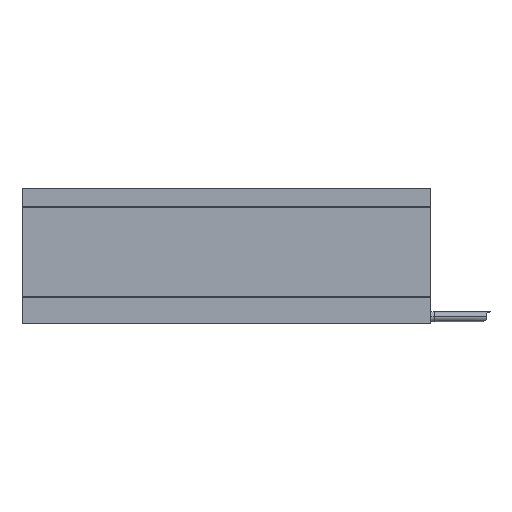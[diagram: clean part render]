
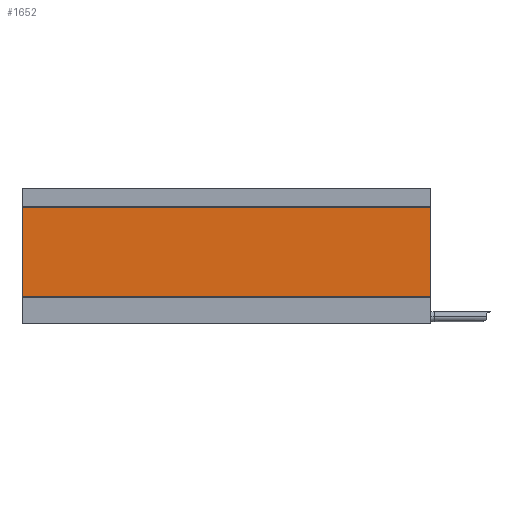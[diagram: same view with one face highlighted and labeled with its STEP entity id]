
A CAD part, top view. The second image highlights one B-rep face of the part: STEP entity #1652.
In plain terms, the highlighted planar face has unit normal (0, 0, 1).
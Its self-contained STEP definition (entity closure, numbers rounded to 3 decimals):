
#318 = PLANE ( 'NONE',  #638 ) ;
#494 = CARTESIAN_POINT ( 'NONE',  ( -84.097, 119.703, 43.079 ) ) ;
#562 = VECTOR ( 'NONE', #4228, 1000. ) ;
#637 = CARTESIAN_POINT ( 'NONE',  ( 156.903, 119.703, 43.079 ) ) ;
#638 = AXIS2_PLACEMENT_3D ( 'NONE', #3777, #3360, #4961 ) ;
#767 = ORIENTED_EDGE ( 'NONE', *, *, #4965, .F. ) ;
#970 = CARTESIAN_POINT ( 'NONE',  ( 156.903, 66.803, 43.079 ) ) ;
#1168 = DIRECTION ( 'NONE',  ( 0., -1., 0. ) ) ;
#1271 = ORIENTED_EDGE ( 'NONE', *, *, #3618, .T. ) ;
#1274 = DIRECTION ( 'NONE',  ( 0., -1., 0. ) ) ;
#1652 = ADVANCED_FACE ( 'NONE', ( #1921 ), #318, .F. ) ;
#1899 = VERTEX_POINT ( 'NONE', #3710 ) ;
#1921 = FACE_OUTER_BOUND ( 'NONE', #4668, .T. ) ;
#1975 = VECTOR ( 'NONE', #1168, 1000. ) ;
#2204 = VECTOR ( 'NONE', #1274, 1000. ) ;
#2426 = LINE ( 'NONE', #494, #2582 ) ;
#2582 = VECTOR ( 'NONE', #3594, 1000. ) ;
#2658 = LINE ( 'NONE', #4925, #562 ) ;
#3138 = VERTEX_POINT ( 'NONE', #970 ) ;
#3187 = CARTESIAN_POINT ( 'NONE',  ( -84.097, 66.803, 43.079 ) ) ;
#3360 = DIRECTION ( 'NONE',  ( 0., 0., -1. ) ) ;
#3465 = LINE ( 'NONE', #3497, #1975 ) ;
#3497 = CARTESIAN_POINT ( 'NONE',  ( 156.903, 66.803, 43.079 ) ) ;
#3594 = DIRECTION ( 'NONE',  ( 1., 0., 0. ) ) ;
#3618 = EDGE_CURVE ( 'NONE', #4182, #1899, #4437, .T. ) ;
#3664 = ORIENTED_EDGE ( 'NONE', *, *, #4431, .T. ) ;
#3710 = CARTESIAN_POINT ( 'NONE',  ( -84.097, 66.803, 43.079 ) ) ;
#3777 = CARTESIAN_POINT ( 'NONE',  ( -84.097, 66.803, 43.079 ) ) ;
#3834 = EDGE_CURVE ( 'NONE', #4182, #3927, #2426, .T. ) ;
#3927 = VERTEX_POINT ( 'NONE', #637 ) ;
#4182 = VERTEX_POINT ( 'NONE', #4904 ) ;
#4228 = DIRECTION ( 'NONE',  ( 1., 0., 0. ) ) ;
#4431 = EDGE_CURVE ( 'NONE', #1899, #3138, #2658, .T. ) ;
#4437 = LINE ( 'NONE', #3187, #2204 ) ;
#4668 = EDGE_LOOP ( 'NONE', ( #767, #4845, #1271, #3664 ) ) ;
#4845 = ORIENTED_EDGE ( 'NONE', *, *, #3834, .F. ) ;
#4904 = CARTESIAN_POINT ( 'NONE',  ( -84.097, 119.703, 43.079 ) ) ;
#4925 = CARTESIAN_POINT ( 'NONE',  ( -84.097, 66.803, 43.079 ) ) ;
#4961 = DIRECTION ( 'NONE',  ( 0., 1., 0. ) ) ;
#4965 = EDGE_CURVE ( 'NONE', #3927, #3138, #3465, .T. ) ;
